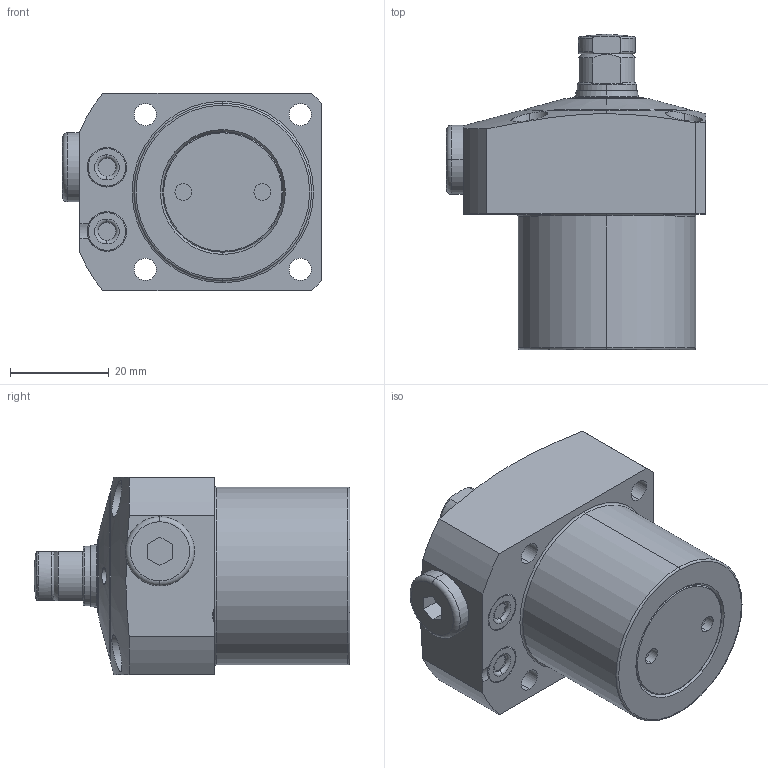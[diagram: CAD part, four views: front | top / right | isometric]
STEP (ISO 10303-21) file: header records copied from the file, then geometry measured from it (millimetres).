
FILE_DESCRIPTION(/* description */ (''),/* implementation_level */ '2;1');
FILE_NAME(/* name */ 'KFSC36.stp',/* time_stamp */ '2026-02-04T15:01:04+08:00',/* author */ (''),/* organization */ (''),/* preprocessor_version */ 'ST-DEVELOPER v16.7',/* originating_system */ 'SIEMENS PLM Software NX 12.0',/* authorisation */ '');
FILE_SCHEMA (('AUTOMOTIVE_DESIGN { 1 0 10303 214 3 1 1 1 }'));
Length unit declared in the file: millimetre
Products named in the file (8): XLD-M8_Oring; XLD-M8_contactbolt; KFSC36-01; KFSC36-04; P5; KFSC36-02; KFSC36-03; LC0363-Cx_step
Assembly tree (8 placements, depth 3):
  LC0363-Cx_step
    KFSC36-02
    P5  x2
    KFSC36-04
    KFSC36-03
      XLD-M8_contactbolt
      XLD-M8_Oring
    KFSC36-01
Bounding box: 52.5 x 64 x 40 mm (x, y, z)
Volume: 67618.3 mm3; surface area: 15127.3 mm2
Topology: 7 solids, 7 shells, 231 faces, 504 edges, 306 vertices
Faces by surface type: cylinder 77, torus 60, plane 55, cone 37, sphere 2
Entity records: 6794 total; most frequent: CARTESIAN_POINT 1553, DIRECTION 1173, ORIENTED_EDGE 952, AXIS2_PLACEMENT_3D 509, EDGE_CURVE 476, VERTEX_POINT 292, CIRCLE 281, EDGE_LOOP 254
